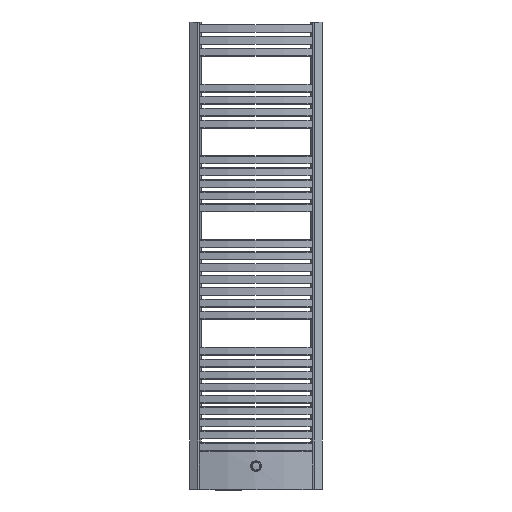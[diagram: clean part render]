
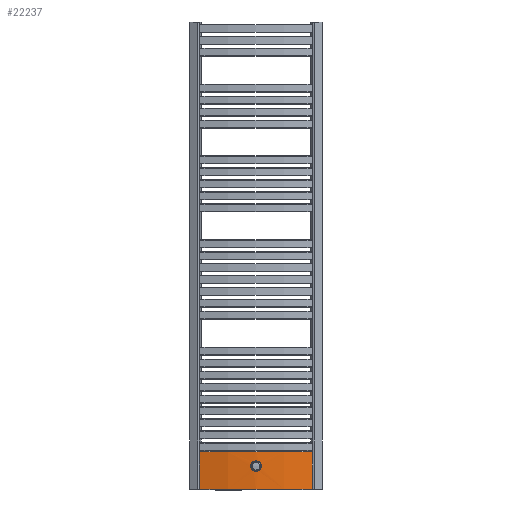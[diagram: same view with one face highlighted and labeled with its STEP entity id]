
A CAD part, front view. The second image highlights one B-rep face of the part: STEP entity #22237.
In plain terms, the highlighted cylindrical face has radius 741 mm (diameter 1482 mm), a partial arc.
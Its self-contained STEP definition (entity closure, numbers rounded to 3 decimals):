
#19827=CARTESIAN_POINT('',(212.002,-31.022,142.));
#19828=VERTEX_POINT('',#19827);
#19991=CARTESIAN_POINT('',(-212.004,-31.021,142.));
#19992=VERTEX_POINT('',#19991);
#20010=CARTESIAN_POINT('',(-212.004,-31.021,0.));
#20011=VERTEX_POINT('',#20010);
#20019=CARTESIAN_POINT('',(-212.004,-31.021,0.));
#20020=DIRECTION('',(0.0,0.0,1.0));
#20021=VECTOR('',#20020,142.);
#20022=LINE('',#20019,#20021);
#20023=EDGE_CURVE('',#20011,#19992,#20022,.T.);
#20034=CARTESIAN_POINT('',(212.002,-31.022,0.));
#20035=VERTEX_POINT('',#20034);
#20036=CARTESIAN_POINT('',(212.002,-31.022,0.));
#20037=DIRECTION('',(0.0,0.0,1.0));
#20038=VECTOR('',#20037,142.);
#20039=LINE('',#20036,#20038);
#20040=EDGE_CURVE('',#20035,#19828,#20039,.T.);
#20197=CARTESIAN_POINT('',(0.,679.004,142.));
#20198=DIRECTION('',(0.,0.,1.0));
#20199=DIRECTION('',(0.,-1.,0.));
#20200=AXIS2_PLACEMENT_3D('',#20197,#20198,#20199);
#20201=CIRCLE('',#20200,741.);
#20202=EDGE_CURVE('',#19992,#19828,#20201,.T.);
#20434=CARTESIAN_POINT('',(0.,679.004,0.));
#20435=DIRECTION('',(0.,0.,-1.0));
#20436=DIRECTION('',(0.,-1.,0.));
#20437=AXIS2_PLACEMENT_3D('',#20434,#20435,#20436);
#20438=CIRCLE('',#20437,741.);
#20439=EDGE_CURVE('',#20035,#20011,#20438,.T.);
#22153=CARTESIAN_POINT('',(0.,679.004,0.));
#22154=DIRECTION('',(0.,0.,1.0));
#22155=DIRECTION('',(0.286,-0.958,0.));
#22156=AXIS2_PLACEMENT_3D('',#22153,#22154,#22155);
#22157=CYLINDRICAL_SURFACE('',#22156,741.);
#22158=ORIENTED_EDGE('',*,*,#20439,.F.);
#22159=ORIENTED_EDGE('',*,*,#20040,.T.);
#22160=ORIENTED_EDGE('',*,*,#20202,.F.);
#22161=ORIENTED_EDGE('',*,*,#20023,.F.);
#22162=EDGE_LOOP('',(#22158,#22159,#22160,#22161));
#22163=FACE_OUTER_BOUND('',#22162,.T.);
#22164=CARTESIAN_POINT('',(-19.92,-61.728,87.5));
#22165=VERTEX_POINT('',#22164);
#22166=CARTESIAN_POINT('',(-19.92,-61.728,87.5));
#22167=CARTESIAN_POINT('',(-19.92,-61.728,88.751));
#22168=CARTESIAN_POINT('',(-19.8,-61.732,90.044));
#22169=CARTESIAN_POINT('',(-19.297,-61.745,92.618));
#22170=CARTESIAN_POINT('',(-18.913,-61.755,93.898));
#22171=CARTESIAN_POINT('',(-17.898,-61.78,96.353));
#22172=CARTESIAN_POINT('',(-17.266,-61.795,97.53));
#22173=CARTESIAN_POINT('',(-15.805,-61.828,99.707));
#22174=CARTESIAN_POINT('',(-14.976,-61.845,100.707));
#22175=CARTESIAN_POINT('',(-13.208,-61.879,102.478));
#22176=CARTESIAN_POINT('',(-12.209,-61.896,103.31));
#22177=CARTESIAN_POINT('',(-10.033,-61.929,104.776));
#22178=CARTESIAN_POINT('',(-8.856,-61.944,105.41));
#22179=CARTESIAN_POINT('',(-6.401,-61.97,106.429));
#22180=CARTESIAN_POINT('',(-5.121,-61.98,106.814));
#22181=CARTESIAN_POINT('',(-2.546,-61.993,107.32));
#22182=CARTESIAN_POINT('',(-1.252,-61.996,107.44));
#22183=CARTESIAN_POINT('',(1.251,-61.996,107.44));
#22184=CARTESIAN_POINT('',(2.545,-61.993,107.32));
#22185=CARTESIAN_POINT('',(5.119,-61.98,106.815));
#22186=CARTESIAN_POINT('',(6.399,-61.97,106.429));
#22187=CARTESIAN_POINT('',(8.854,-61.944,105.411));
#22188=CARTESIAN_POINT('',(10.031,-61.929,104.777));
#22189=CARTESIAN_POINT('',(12.206,-61.896,103.312));
#22190=CARTESIAN_POINT('',(13.206,-61.879,102.481));
#22191=CARTESIAN_POINT('',(14.974,-61.845,100.71));
#22192=CARTESIAN_POINT('',(15.803,-61.828,99.71));
#22193=CARTESIAN_POINT('',(17.265,-61.795,97.532));
#22194=CARTESIAN_POINT('',(17.897,-61.78,96.355));
#22195=CARTESIAN_POINT('',(18.913,-61.755,93.899));
#22196=CARTESIAN_POINT('',(19.297,-61.745,92.619));
#22197=CARTESIAN_POINT('',(19.8,-61.732,90.045));
#22198=CARTESIAN_POINT('',(19.92,-61.728,88.751));
#22199=CARTESIAN_POINT('',(19.92,-61.728,86.249));
#22200=CARTESIAN_POINT('',(19.8,-61.732,84.955));
#22201=CARTESIAN_POINT('',(19.297,-61.745,82.381));
#22202=CARTESIAN_POINT('',(18.913,-61.755,81.101));
#22203=CARTESIAN_POINT('',(17.897,-61.78,78.645));
#22204=CARTESIAN_POINT('',(17.265,-61.795,77.468));
#22205=CARTESIAN_POINT('',(15.803,-61.828,75.29));
#22206=CARTESIAN_POINT('',(14.974,-61.845,74.29));
#22207=CARTESIAN_POINT('',(13.206,-61.879,72.519));
#22208=CARTESIAN_POINT('',(12.206,-61.896,71.688));
#22209=CARTESIAN_POINT('',(10.031,-61.929,70.223));
#22210=CARTESIAN_POINT('',(8.854,-61.944,69.589));
#22211=CARTESIAN_POINT('',(6.399,-61.97,68.571));
#22212=CARTESIAN_POINT('',(5.119,-61.98,68.185));
#22213=CARTESIAN_POINT('',(2.545,-61.993,67.68));
#22214=CARTESIAN_POINT('',(1.251,-61.996,67.56));
#22215=CARTESIAN_POINT('',(-1.251,-61.996,67.56));
#22216=CARTESIAN_POINT('',(-2.545,-61.993,67.68));
#22217=CARTESIAN_POINT('',(-5.119,-61.98,68.185));
#22218=CARTESIAN_POINT('',(-6.399,-61.97,68.571));
#22219=CARTESIAN_POINT('',(-8.854,-61.944,69.589));
#22220=CARTESIAN_POINT('',(-10.031,-61.929,70.223));
#22221=CARTESIAN_POINT('',(-12.206,-61.896,71.688));
#22222=CARTESIAN_POINT('',(-13.206,-61.879,72.519));
#22223=CARTESIAN_POINT('',(-14.974,-61.845,74.29));
#22224=CARTESIAN_POINT('',(-15.803,-61.828,75.29));
#22225=CARTESIAN_POINT('',(-17.265,-61.795,77.468));
#22226=CARTESIAN_POINT('',(-17.897,-61.78,78.645));
#22227=CARTESIAN_POINT('',(-18.913,-61.755,81.101));
#22228=CARTESIAN_POINT('',(-19.297,-61.745,82.381));
#22229=CARTESIAN_POINT('',(-19.8,-61.732,84.955));
#22230=CARTESIAN_POINT('',(-19.92,-61.728,86.249));
#22231=CARTESIAN_POINT('',(-19.92,-61.728,87.5));
#22232=B_SPLINE_CURVE_WITH_KNOTS('',3,(#22166,#22167,#22168,#22169,#22170,#22171,#22172,#22173,#22174,#22175,#22176,#22177,#22178,#22179,#22180,#22181,#22182,#22183,#22184,#22185,#22186,#22187,#22188,#22189,#22190,#22191,#22192,#22193,#22194,#22195,#22196,#22197,#22198,#22199,#22200,#22201,#22202,#22203,#22204,#22205,#22206,#22207,#22208,#22209,#22210,#22211,#22212,#22213,#22214,#22215,#22216,#22217,#22218,#22219,#22220,#22221,#22222,#22223,#22224,#22225,#22226,#22227,#22228,#22229,#22230,#22231),.UNSPECIFIED.,.T.,.U.,(4,2,2,2,2,2,2,2,2,2,2,2,2,2,2,2,2,2,2,2,2,2,2,2,2,2,2,2,2,2,2,2,4),(0.0,0.375,0.75,1.126,1.501,1.876,2.252,2.628,3.003,3.378,3.754,4.129,4.505,4.88,5.255,5.631,6.006,6.381,6.757,7.132,7.507,7.883,8.258,8.634,9.009,9.385,9.76,10.135,10.511,10.886,11.262,11.637,12.012),.UNSPECIFIED.);
#22233=EDGE_CURVE('',#22165,#22165,#22232,.T.);
#22234=ORIENTED_EDGE('',*,*,#22233,.T.);
#22235=EDGE_LOOP('',(#22234));
#22236=FACE_BOUND('',#22235,.T.);
#22237=ADVANCED_FACE('',(#22163,#22236),#22157,.T.);
